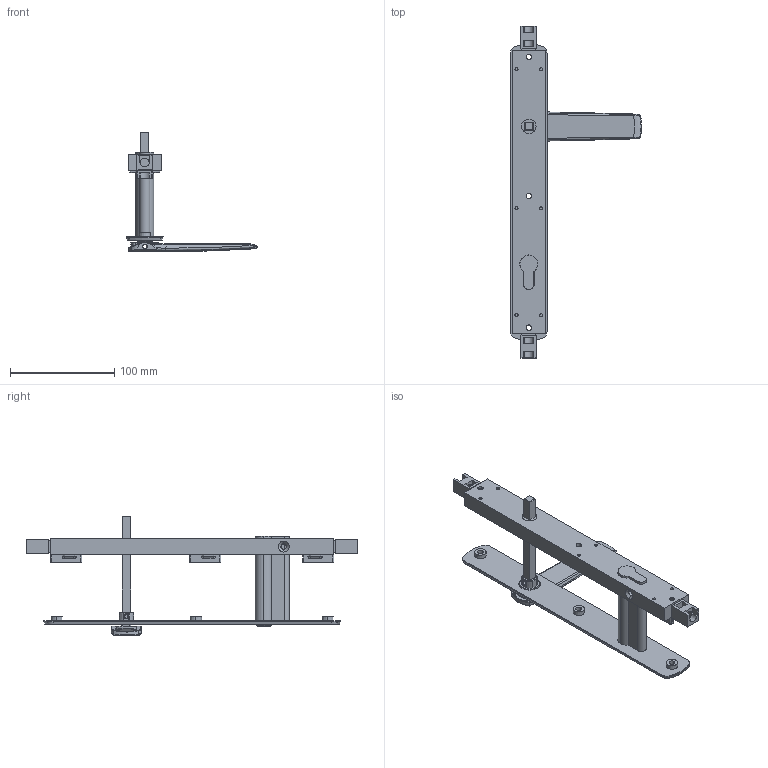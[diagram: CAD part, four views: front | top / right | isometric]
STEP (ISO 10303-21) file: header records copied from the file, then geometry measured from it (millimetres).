
FILE_DESCRIPTION (( 'STEP AP214' ), '1' );
FILE_NAME ('TPL-H-EU-603-A 30Oct2024.STEP', '2024-10-30T03:32:27', ( '' ), ( '' ), 'SwSTEP 2.0', 'SolidWorks 2023', '' );
FILE_SCHEMA (( 'AUTOMOTIVE_DESIGN' ));
Length unit declared in the file: millimetre
Products named in the file (12): Copy of TPLGen2 lock body keyed assembly^TPL-H-EU-103 30Oct2024_Bolts retracted - right; Copy of TPLGen2 lock body keyed^Copy of TPLGen2 lock body keyed assembly_TPL-H-EU-103 30Oct2024_Right; Copy of LKC-585 Rotator body zinc^Copy of TPGen2 handle keyed internal zinc - simplified_TPL-H-EU-103 30Oct2024; Copy of LKC-586 Spindle square 8mm with M4 hole^Copy of TPGen2 handle keyed internal zinc - simplified_TPL-H-EU-103 30Oct2024_100mm; Copy of TPL-H-EU-005 29Oct2024^TPL-H-EU-103 30Oct2024_TPL-064-75 Right; Copy of LKC-584 Pivot body zinc - simplified^Copy of TPGen2 handle keyed internal zinc - simplified_TPL-H-EU-103 30Oct2024; Copy of LKC-505 Swing handle zinc - simplified^Copy of TPGen2 handle keyed internal zinc - simplified_TPL-H-EU-103 30Oct2024; TPL-H-EU-603-A 30Oct2024; Copy of TPGen2 handle keyed internal zinc - simplified^TPL-H-EU-103 30Oct2024_Left; Copy of TPL-H-APC-515 04Oct2024^TPL-H-EU-103 30Oct2024; Copy of TPLGen2 push rod - simplified^Copy of TPLGen2 lock body keyed assembly_TPL-H-EU-103 30Oct2024_Female thread M10; Copy of LKC-512 Escutcheon plate keyed internal 285mm long zinc - simplified^Copy of TPGen2 handle keyed internal zinc - simplified_TPL-H-EU-103 30Oct2024
Assembly tree (14 placements, depth 3):
  TPL-H-EU-603-A 30Oct2024
    Copy of TPLGen2 lock body keyed assembly^TPL-H-EU-103 30Oct2024_Bolts retracted - right
      Copy of TPLGen2 lock body keyed^Copy of TPLGen2 lock body keyed assembly_TPL-H-EU-103 30Oct2024_Right
      Copy of TPLGen2 push rod - simplified^Copy of TPLGen2 lock body keyed assembly_TPL-H-EU-103 30Oct2024_Female thread M10  x2
    Copy of TPGen2 handle keyed internal zinc - simplified^TPL-H-EU-103 30Oct2024_Left
      Copy of LKC-512 Escutcheon plate keyed internal 285mm long zinc - simplified^Copy of TPGen2 handle keyed internal zinc - simplified_TPL-H-EU-103 30Oct2024
      Copy of LKC-505 Swing handle zinc - simplified^Copy of TPGen2 handle keyed internal zinc - simplified_TPL-H-EU-103 30Oct2024
      Copy of LKC-585 Rotator body zinc^Copy of TPGen2 handle keyed internal zinc - simplified_TPL-H-EU-103 30Oct2024
      Copy of LKC-586 Spindle square 8mm with M4 hole^Copy of TPGen2 handle keyed internal zinc - simplified_TPL-H-EU-103 30Oct2024_100mm
      Copy of LKC-584 Pivot body zinc - simplified^Copy of TPGen2 handle keyed internal zinc - simplified_TPL-H-EU-103 30Oct2024
    Copy of TPL-H-APC-515 04Oct2024^TPL-H-EU-103 30Oct2024  x3
    Copy of TPL-H-EU-005 29Oct2024^TPL-H-EU-103 30Oct2024_TPL-064-75 Right
Bounding box: 125.62 x 318.6 x 114.46 mm (x, y, z)
Volume: 236003.8 mm3; surface area: 92511.8 mm2
Topology: 12 solids, 12 shells, 1121 faces, 2727 edges, 1652 vertices
Faces by surface type: cylinder 351, plane 341, bspline 224, torus 109, cone 67, sphere 29
Entity records: 29835 total; most frequent: CARTESIAN_POINT 12441, ORIENTED_EDGE 3746, DIRECTION 3356, EDGE_CURVE 1873, AXIS2_PLACEMENT_3D 1325, VERTEX_POINT 1136, EDGE_LOOP 869, ADVANCED_FACE 784
